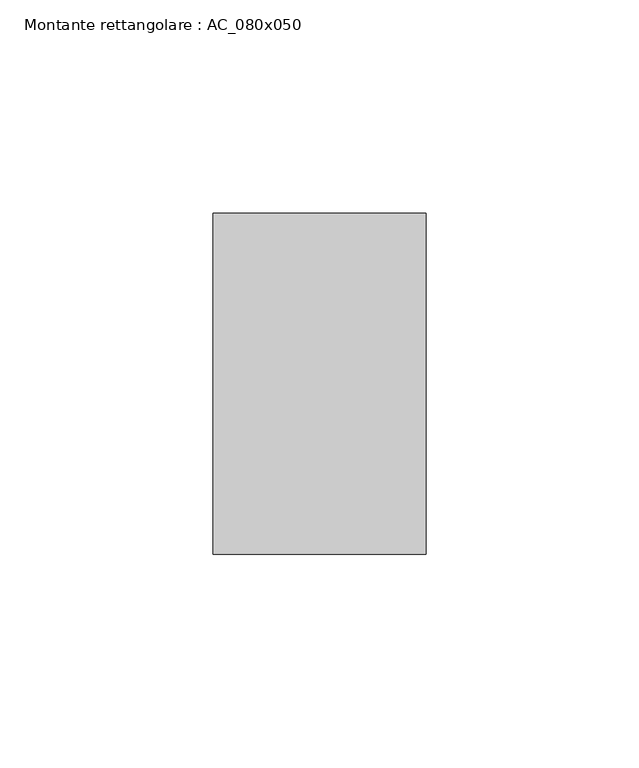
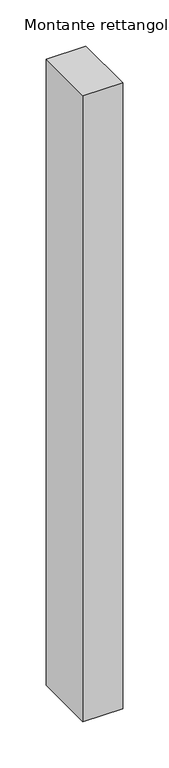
"""IFC4 building model written with IfcOpenShell, lengths in millimetres: member geometry, Montante rettangolare : AC_080x050."""

from ifc_helpers import new_model, si_unit, frame, origin, place, context, project, spatial, polyline, outline, extrude, source, transform, mapped, element, save


def montante_rettangolare_ac_080x050_8287f4ca(model_context):
    return source(origin(), model_context, "Body", "SweptSolid", [
        extrude(outline(polyline([(0.0, 40.0), (0.0, -40.0), (-50.0, -40.0), (-50.0, 40.0), (0.0, 40.0)])), frame((0.0, 0.0, -830.0), z_axis=(0.0, 0.0, 1.0), x_axis=(1.0, 0.0, 0.0)), (0.0, 0.0, 1.0), 830.0),
    ])


if __name__ == "__main__":
    model = new_model("IFC4")
    model_context = context("Model", 3, world=origin())
    ifc_project = project(units=[si_unit("LENGTHUNIT", "METRE", prefix="MILLI")], contexts=[model_context])
    site = spatial("IfcSite", under=ifc_project)
    building = spatial("IfcBuilding", under=site)
    placement = place(None, origin())
    montante_rettangolare_ac_080x050_shape = montante_rettangolare_ac_080x050_8287f4ca(model_context)
    element("IfcMember", 1, ObjectType="Montante rettangolare : AC_080x050", at=placement, inside=building, context=model_context, shape_type="MappedRepresentation", body=[
        mapped(montante_rettangolare_ac_080x050_shape, transform((0.0, 0.0, 0.0), x_axis=(1.0, 0.0, 0.0), y_axis=(0.0, 1.0, 0.0), z_axis=(0.0, 0.0, 1.0))),
    ])
    save(model, "model.ifc")
